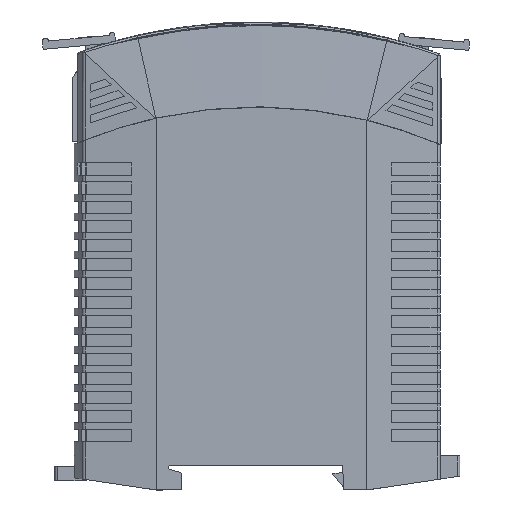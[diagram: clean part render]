
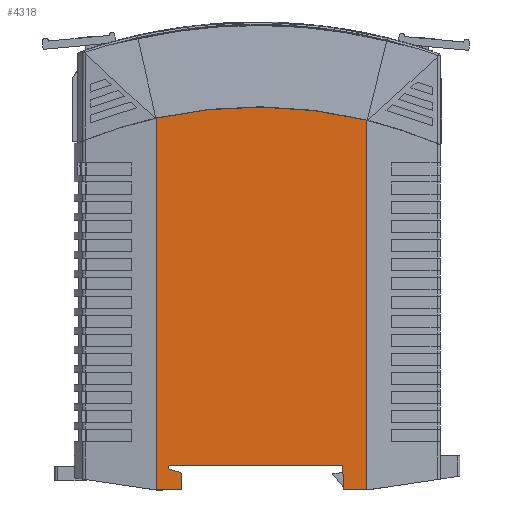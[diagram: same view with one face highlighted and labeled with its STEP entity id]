
A CAD part, left-side view. The second image highlights one B-rep face of the part: STEP entity #4318.
In plain terms, the highlighted planar face has unit normal (-1, 0, 0).
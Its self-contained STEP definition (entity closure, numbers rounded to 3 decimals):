
#682=CARTESIAN_POINT('',(-22.5,15.,70.785));
#683=VERTEX_POINT('',#682);
#691=CARTESIAN_POINT('',(-22.5,15.0,-5.));
#692=VERTEX_POINT('',#691);
#693=CARTESIAN_POINT('',(-22.5,15.,70.785));
#694=DIRECTION('',(0.0,0.0,-1.0));
#695=VECTOR('',#694,75.785);
#696=LINE('',#693,#695);
#697=EDGE_CURVE('',#683,#692,#696,.T.);
#2563=CARTESIAN_POINT('',(-22.5,58.2,71.207));
#2564=VERTEX_POINT('',#2563);
#2572=CARTESIAN_POINT('',(-22.5,37.5,-21.1));
#2573=DIRECTION('',(1.0,0.0,0.0));
#2574=DIRECTION('',(0.0,0.0,-1.0));
#2575=AXIS2_PLACEMENT_3D('',#2572,#2573,#2574);
#2576=CIRCLE('',#2575,94.6);
#2577=EDGE_CURVE('',#2564,#683,#2576,.T.);
#4237=CARTESIAN_POINT('',(-22.5,58.2,0.0));
#4238=DIRECTION('',(-1.0,0.0,0.0));
#4239=DIRECTION('',(0.0,0.0,1.0));
#4240=AXIS2_PLACEMENT_3D('',#4237,#4238,#4239);
#4241=PLANE('',#4240);
#4242=CARTESIAN_POINT('',(-22.5,55.32,0.));
#4243=VERTEX_POINT('',#4242);
#4244=CARTESIAN_POINT('',(-22.5,20.,0.0));
#4245=VERTEX_POINT('',#4244);
#4246=CARTESIAN_POINT('',(-22.5,55.32,0.0));
#4247=DIRECTION('',(0.0,-1.0,0.0));
#4248=VECTOR('',#4247,35.32);
#4249=LINE('',#4246,#4248);
#4250=EDGE_CURVE('',#4243,#4245,#4249,.T.);
#4251=ORIENTED_EDGE('',*,*,#4250,.T.);
#4252=CARTESIAN_POINT('',(-22.5,19.74,-5.));
#4253=VERTEX_POINT('',#4252);
#4254=CARTESIAN_POINT('',(-22.5,20.,0.));
#4255=DIRECTION('',(0.0,-0.052,-0.999));
#4256=VECTOR('',#4255,5.007);
#4257=LINE('',#4254,#4256);
#4258=EDGE_CURVE('',#4245,#4253,#4257,.T.);
#4259=ORIENTED_EDGE('',*,*,#4258,.T.);
#4260=CARTESIAN_POINT('',(-22.5,19.74,-5.));
#4261=DIRECTION('',(0.0,-1.0,0.0));
#4262=VECTOR('',#4261,4.74);
#4263=LINE('',#4260,#4262);
#4264=EDGE_CURVE('',#4253,#692,#4263,.T.);
#4265=ORIENTED_EDGE('',*,*,#4264,.T.);
#4266=ORIENTED_EDGE('',*,*,#697,.F.);
#4267=ORIENTED_EDGE('',*,*,#2577,.F.);
#4268=CARTESIAN_POINT('',(-22.5,58.2,-5.));
#4269=VERTEX_POINT('',#4268);
#4270=CARTESIAN_POINT('',(-22.5,58.2,71.207));
#4271=DIRECTION('',(0.0,0.0,-1.0));
#4272=VECTOR('',#4271,76.207);
#4273=LINE('',#4270,#4272);
#4274=EDGE_CURVE('',#2564,#4269,#4273,.T.);
#4275=ORIENTED_EDGE('',*,*,#4274,.T.);
#4276=CARTESIAN_POINT('',(-22.5,53.,-5.));
#4277=VERTEX_POINT('',#4276);
#4278=CARTESIAN_POINT('',(-22.5,58.2,-5.));
#4279=DIRECTION('',(0.0,-1.0,0.0));
#4280=VECTOR('',#4279,5.2);
#4281=LINE('',#4278,#4280);
#4282=EDGE_CURVE('',#4269,#4277,#4281,.T.);
#4283=ORIENTED_EDGE('',*,*,#4282,.T.);
#4284=CARTESIAN_POINT('',(-22.5,53.,-1.819));
#4285=VERTEX_POINT('',#4284);
#4286=CARTESIAN_POINT('',(-22.5,53.,-5.));
#4287=DIRECTION('',(0.0,0.0,1.0));
#4288=VECTOR('',#4287,3.181);
#4289=LINE('',#4286,#4288);
#4290=EDGE_CURVE('',#4277,#4285,#4289,.T.);
#4291=ORIENTED_EDGE('',*,*,#4290,.T.);
#4292=CARTESIAN_POINT('',(-22.5,53.371,-1.336));
#4293=VERTEX_POINT('',#4292);
#4294=CARTESIAN_POINT('',(-22.5,53.5,-1.819));
#4295=DIRECTION('',(-1.0,0.0,0.0));
#4296=DIRECTION('',(0.0,0.0,-1.0));
#4297=AXIS2_PLACEMENT_3D('',#4294,#4295,#4296);
#4298=CIRCLE('',#4297,0.5);
#4299=EDGE_CURVE('',#4285,#4293,#4298,.T.);
#4300=ORIENTED_EDGE('',*,*,#4299,.T.);
#4301=CARTESIAN_POINT('',(-22.5,55.424,-0.786));
#4302=VERTEX_POINT('',#4301);
#4303=CARTESIAN_POINT('',(-22.5,53.371,-1.336));
#4304=DIRECTION('',(0.0,0.966,0.259));
#4305=VECTOR('',#4304,2.125);
#4306=LINE('',#4303,#4305);
#4307=EDGE_CURVE('',#4293,#4302,#4306,.T.);
#4308=ORIENTED_EDGE('',*,*,#4307,.T.);
#4309=CARTESIAN_POINT('',(-22.5,55.32,-0.4));
#4310=DIRECTION('',(1.0,0.0,0.0));
#4311=DIRECTION('',(0.0,0.0,-1.0));
#4312=AXIS2_PLACEMENT_3D('',#4309,#4310,#4311);
#4313=CIRCLE('',#4312,0.4);
#4314=EDGE_CURVE('',#4302,#4243,#4313,.T.);
#4315=ORIENTED_EDGE('',*,*,#4314,.T.);
#4316=EDGE_LOOP('',(#4251,#4259,#4265,#4266,#4267,#4275,#4283,#4291,#4300,#4308,#4315));
#4317=FACE_OUTER_BOUND('',#4316,.T.);
#4318=ADVANCED_FACE('',(#4317),#4241,.T.);
